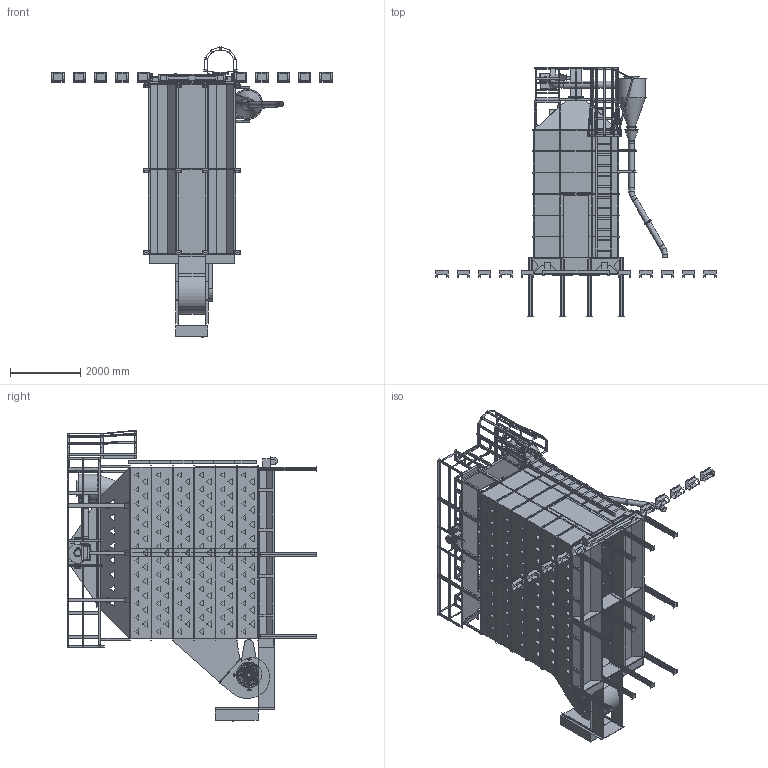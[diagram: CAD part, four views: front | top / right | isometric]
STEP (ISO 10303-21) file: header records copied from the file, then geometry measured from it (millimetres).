
FILE_DESCRIPTION(/* description */ ('PLAN AND ELEVATION VIEW FOR D1680 WITH ROOF & PRE-CLEANER'),/* implementation_level */ '2;1');
FILE_NAME(/* name */ 'C:\Engineering\Designs\Sales\Dryer\Workspaces\D16 All\D1680PC.stp',/* time_stamp */ '2025-01-06T16:43:02-06:00',/* author */ ('max.fleming'),/* organization */ (''),/* preprocessor_version */ 'ST-DEVELOPER v18.1',/* originating_system */ 'Autodesk Inventor 2022',/* authorisation */ '');
FILE_SCHEMA (('AUTOMOTIVE_DESIGN { 1 0 10303 214 3 1 1 }'));
Products named in the file (33): D1680PC; 16FT FRAME; 8FT LHRH FRAME; 16FT ROOF GF; 8FTRoof GF LHRH; 16FT BODY TIER; LH Body; RH Body; LH Body_MIR6; RH Body_MIR6; Outside Splice; Trans & Blower 16FT; Standard Size End Plenum Panels; Ladder 2' section; 6'' CROSS AUGER; Short Tongue; Leg Kit-02; 16FT PRE CLEANER RH DIS; 16FT Pre Cleaner Grav Assy; Aspirator Blower CCW; Aspirator Blower; NEMA MOTOR 182T; 16FT FULL CATWALK W PRE CLEANER MOUNTS; Pre-Cleaner Cyclone; 16FT Aspirator 8in Pipe; 6in PIPE SLEEVE 11L; 6IN ELBOW; 6in PIPE 60L; PIPE SUPPORT; Ladder Cage; 6IN HANGER; Belt Shield; Screen Guard 16
Assembly tree (63 placements, depth 4):
  D1680PC
    16FT FRAME
      8FT LHRH FRAME  x2
    16FT ROOF GF
      8FTRoof GF LHRH  x2
    16FT BODY TIER  x6
      LH Body
      RH Body
      LH Body_MIR6
      RH Body_MIR6
      Outside Splice
    Leg Kit-02  x12
    Trans & Blower 16FT
    Standard Size End Plenum Panels  x9
    Short Tongue
    16FT PRE CLEANER RH DIS
      16FT Pre Cleaner Grav Assy
      Aspirator Blower CCW
        Aspirator Blower
        NEMA MOTOR 182T
      16FT FULL CATWALK W PRE CLEANER MOUNTS
      Pre-Cleaner Cyclone
      16FT Aspirator 8in Pipe
    6in PIPE SLEEVE 11L
    6in PIPE 60L  x2
    6IN ELBOW  x2
    6IN HANGER  x3
    PIPE SUPPORT  x2
    Ladder Cage
    Belt Shield
    Screen Guard 16  x2
  Ladder 2' section
  6'' CROSS AUGER
Bounding box: 8007.35 x 7120.34 x 8280.4 mm (x, y, z)
Volume: 35379582120.3 mm3; surface area: 535094454.6 mm2
Topology: 129 solids, 129 shells, 7925 faces, 21961 edges, 14375 vertices
Faces by surface type: plane 6096, cylinder 1777, bspline 34, torus 12, cone 4, sphere 2
Full cylindrical faces by diameter (mm): 10.319 x4, 11.112 x15, 12.7 x40, 15.875 x48, 28.575 x1, 38.1 x1, 44.45 x15, 50.8 x1, 95.25 x2, 127 x2, 139.7 x1, 150.622 x4, 152.4 x5, 154.051 x3, 155.575 x3, 190.5 x1, 196.85 x1, 198.12 x3, 203.2 x4, 204.851 x2, 206.375 x2, 215.9 x1, 228.6 x1, 248.92 x1, 254 x1, 273.05 x1, 317.5 x1, 393.7 x1, 406.4 x1, 469.9 x1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
Entity records: 135610 total; most frequent: CARTESIAN_POINT 24454, ORIENTED_EDGE 23284, DIRECTION 21493, EDGE_CURVE 11642, LINE 9833, VECTOR 9833, VERTEX_POINT 7614, AXIS2_PLACEMENT_3D 5830
